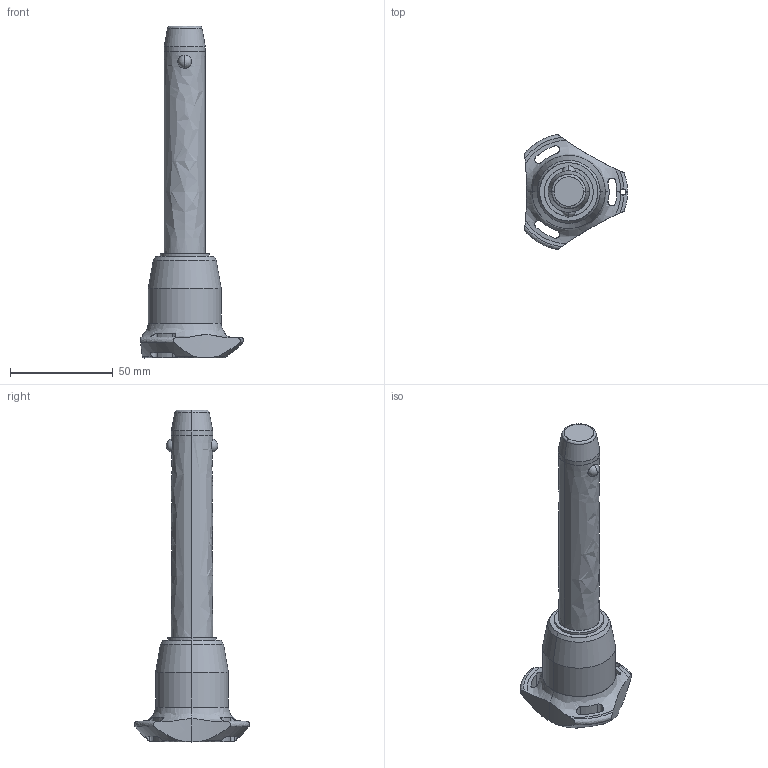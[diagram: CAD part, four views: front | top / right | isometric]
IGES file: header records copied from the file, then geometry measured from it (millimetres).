
Start section: SolidWorks IGES file using analytic representation for surfaces
Global section: file name: C:\Users\ianosborn\Desktop\QR1726_v2\QR1726_v2_20251115_IGES\QR1726.M20-090-T.igs; native system: SolidWorks 2019; preprocessor: SolidWorks 2019; author: IanOsborn; date: 251113.112513; units: millimetre
Bounding box: 50.05 x 56.02 x 161.2 mm (x, y, z)
Surface area: 16731.6 mm2 (no closed solid volume)
Topology: 0 solids, 0 shells, 68 faces, 1445 edges, 1441 vertices
Faces by surface type: revolution 52, bspline 16
